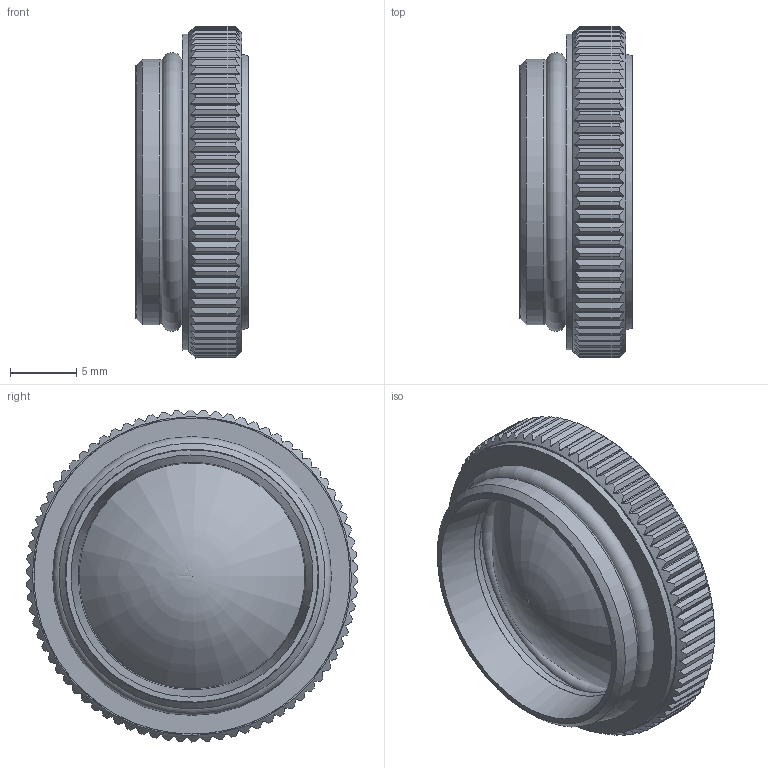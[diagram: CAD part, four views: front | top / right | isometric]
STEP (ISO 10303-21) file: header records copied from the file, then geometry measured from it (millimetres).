
FILE_DESCRIPTION(/* description */ (''),/* implementation_level */ '2;1');
FILE_NAME(/* name */ 'GOT-0596_Obiettivo 9mm.stp',/* time_stamp */ '2021-03-03T12:45:03+01:00',/* author */ (''),/* organization */ (''),/* preprocessor_version */ 'ST-DEVELOPER v16.7',/* originating_system */ 'SIEMENS PLM Software NX 12.0',/* authorisation */ '');
FILE_SCHEMA (('AUTOMOTIVE_DESIGN { 1 0 10303 214 3 1 1 1 }'));
Length unit declared in the file: millimetre
Products named in the file (1): MBra3F20A007e4yz
Bounding box: 8.5 x 25 x 25 mm (x, y, z)
Volume: 2492.5 mm3; surface area: 3042.5 mm2
Topology: 4 solids, 6 shells, 345 faces, 998 edges, 661 vertices
Faces by surface type: plane 164, cylinder 163, cone 11, bspline 3, torus 3, sphere 1
Full cylindrical faces by diameter (mm): 18.8 x2, 19.08 x1, 20 x3, 23.8 x1
Entity records: 15167 total; most frequent: CARTESIAN_POINT 8042, ORIENTED_EDGE 1942, EDGE_CURVE 973, B_SPLINE_CURVE_WITH_KNOTS 970, DIRECTION 688, VERTEX_POINT 661, EDGE_LOOP 370, ADVANCED_FACE 345
